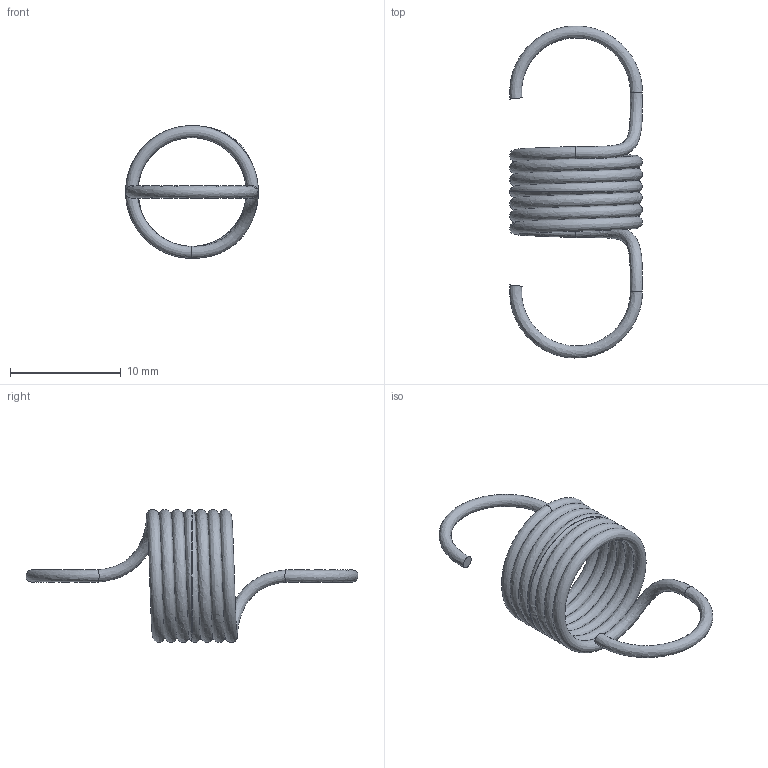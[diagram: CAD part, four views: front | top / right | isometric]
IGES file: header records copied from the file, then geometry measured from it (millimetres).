
Global section: file name: T11040; native system: Autodesk Inventor 2026; preprocessor: unknown; author: J. Iwanek; date: 20261005.095220; units: millimetre
Bounding box: 12 x 29.98 x 12 mm (x, y, z)
Volume: 266.4 mm3; surface area: 968.6 mm2
Topology: 1 solids, 1 shells, 10 faces, 32 edges, 20 vertices
Faces by surface type: bspline 10
